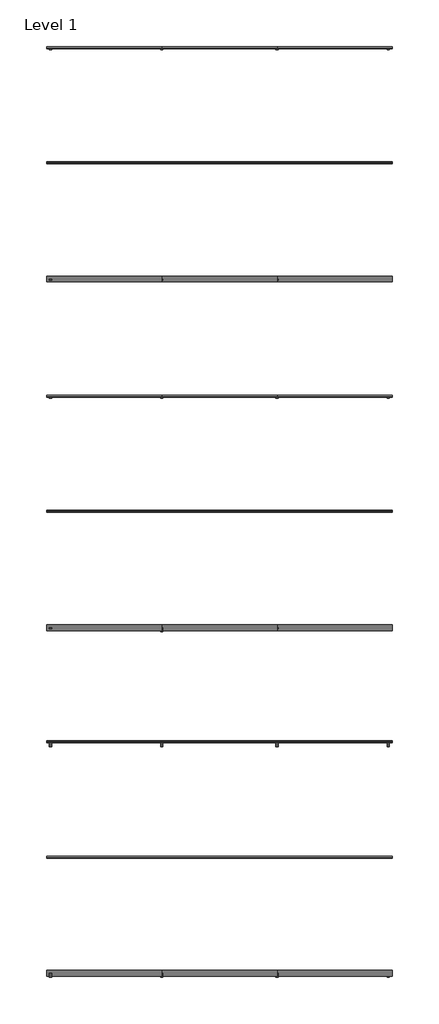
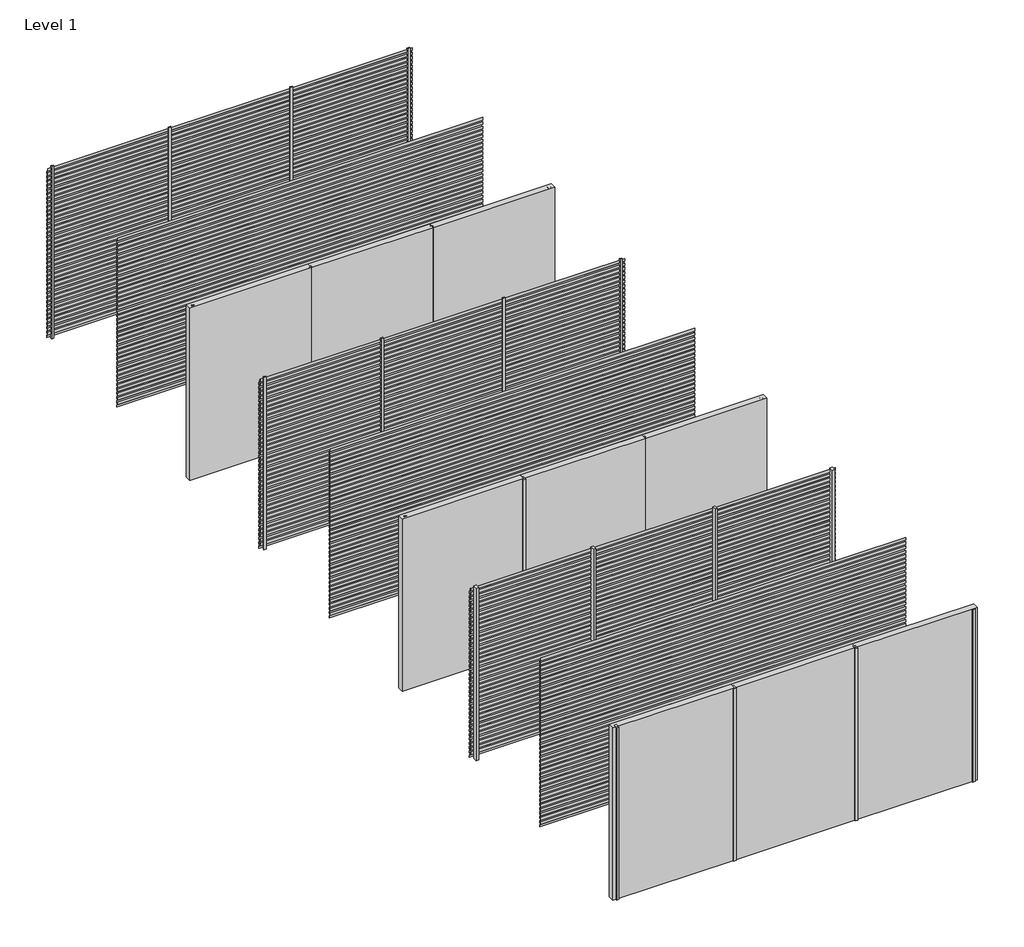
# One storey: 24 members, 21 plates.
"""IFC4 building model written with IfcOpenShell, lengths in millimetres."""

from ifc_helpers import new_model, si_unit, origin, place, context, project, spatial, transform, mapped, element, save
from components import rectangular_mullion_38ebcafd, rectangular_mullion_2b30d03f, rectangular_mullion_a5d3c004, rectangular_mullion_b9a1a312, rectangular_mullion_3da17bfe, rectangular_mullion_3b23135f, empty_system_panel_empty_24b1c33f, screening_35_75_screening_35_75_4ebe1a9e, screening_35_75_screening_35_75_062fe571

model = new_model("IFC4")

# Units and contexts
model_context = context("Model", 3, world=origin())
ifc_project = project(units=[si_unit("LENGTHUNIT", "METRE", prefix="MILLI")], contexts=[model_context])

# Site, building, storey
site = spatial("IfcSite", under=ifc_project)
building = spatial("IfcBuilding", under=site)
storey = spatial("IfcBuildingStorey", under=building, Name="Level 1", Elevation=0.0)

# Members
placement = place(None, origin())
rectangular_mullion_shape = rectangular_mullion_38ebcafd(model_context)
element("IfcMember", 1, ObjectType="Rectangular Mullion : RSen_21_CWM_support profile - 40x21 - left_gen_duco projects", at=placement, inside=storey, context=model_context, shape_type="MappedRepresentation", body=[
    mapped(rectangular_mullion_shape, transform((0.0, 0.0, 0.0), x_axis=(-1.0, 0.0, 0.0), y_axis=(0.0, 1.0, 0.0), z_axis=(0.0, 0.0, -1.0))),
])
element("IfcMember", 2, ObjectType="Rectangular Mullion : RSen_21_CWM_support profile - 40x21 - left_gen_duco projects", at=placement, inside=storey, context=model_context, shape_type="MappedRepresentation", body=[
    mapped(rectangular_mullion_shape, transform((0.0, -4000.0, 0.0), x_axis=(-1.0, 0.0, 0.0), y_axis=(0.0, 1.0, 0.0), z_axis=(0.0, 0.0, -1.0))),
])
rectangular_mullion_2_shape = rectangular_mullion_2b30d03f(model_context)
element("IfcMember", 3, ObjectType="Rectangular Mullion : RSen_21_CWM_support profile - 40x21 - right_gen_duco projects", at=placement, inside=storey, context=model_context, shape_type="MappedRepresentation", body=[
    mapped(rectangular_mullion_2_shape, transform((6000.0, 0.0, 3000.0), x_axis=(1.0, 0.0, 0.0), y_axis=(0.0, 1.0, 0.0), z_axis=(0.0, 0.0, 1.0))),
])
element("IfcMember", 4, ObjectType="Rectangular Mullion : RSen_21_CWM_support profile - 40x21 - right_gen_duco projects", at=placement, inside=storey, context=model_context, shape_type="MappedRepresentation", body=[
    mapped(rectangular_mullion_2_shape, transform((6000.0, -4000.0, 3000.0), x_axis=(1.0, 0.0, 0.0), y_axis=(0.0, 1.0, 0.0), z_axis=(0.0, 0.0, 1.0))),
])
rectangular_mullion_3_shape = rectangular_mullion_a5d3c004(model_context)
element("IfcMember", 5, ObjectType="Rectangular Mullion : RSen_21_CWM_support profile - 40x70-double - left_gen_duco projects", at=placement, inside=storey, context=model_context, shape_type="MappedRepresentation", body=[
    mapped(rectangular_mullion_3_shape, transform((0.0, -6000.0, 0.0), x_axis=(-1.0, 0.0, 0.0), y_axis=(0.0, 1.0, 0.0), z_axis=(0.0, 0.0, -1.0))),
])
element("IfcMember", 6, ObjectType="Rectangular Mullion : RSen_21_CWM_support profile - 40x70-double - left_gen_duco projects", at=placement, inside=storey, context=model_context, shape_type="MappedRepresentation", body=[
    mapped(rectangular_mullion_3_shape, transform((0.0, -10000.0, 0.0), x_axis=(-1.0, 0.0, 0.0), y_axis=(0.0, 1.0, 0.0), z_axis=(0.0, 0.0, -1.0))),
])
rectangular_mullion_4_shape = rectangular_mullion_b9a1a312(model_context)
element("IfcMember", 7, ObjectType="Rectangular Mullion : RSen_21_CWM_support profile - 40x70-double - right_gen_duco projects", at=placement, inside=storey, context=model_context, shape_type="MappedRepresentation", body=[
    mapped(rectangular_mullion_4_shape, transform((6000.0, -6000.0, 3000.0), x_axis=(1.0, 0.0, 0.0), y_axis=(0.0, 1.0, 0.0), z_axis=(0.0, 0.0, 1.0))),
])
element("IfcMember", 8, ObjectType="Rectangular Mullion : RSen_21_CWM_support profile - 40x70-double - right_gen_duco projects", at=placement, inside=storey, context=model_context, shape_type="MappedRepresentation", body=[
    mapped(rectangular_mullion_4_shape, transform((6000.0, -10000.0, 3000.0), x_axis=(1.0, 0.0, 0.0), y_axis=(0.0, 1.0, 0.0), z_axis=(0.0, 0.0, 1.0))),
])
rectangular_mullion_5_shape = rectangular_mullion_3da17bfe(model_context)
element("IfcMember", 9, ObjectType="Rectangular Mullion : RSen_21_CWM_support profile - 40x70-double_gen_duco projects", at=placement, inside=storey, context=model_context, shape_type="MappedRepresentation", body=[
    mapped(rectangular_mullion_5_shape, transform((2000.0, -4000.0, 0.0), x_axis=(-1.0, 0.0, 0.0), y_axis=(0.0, 1.0, 0.0), z_axis=(0.0, 0.0, -1.0))),
])
element("IfcMember", 10, ObjectType="Rectangular Mullion : RSen_21_CWM_support profile - 40x70-double_gen_duco projects", at=placement, inside=storey, context=model_context, shape_type="MappedRepresentation", body=[
    mapped(rectangular_mullion_5_shape, transform((4000.0, -6000.0, 0.0), x_axis=(-1.0, 0.0, 0.0), y_axis=(0.0, 1.0, 0.0), z_axis=(0.0, 0.0, -1.0))),
])
element("IfcMember", 11, ObjectType="Rectangular Mullion : RSen_21_CWM_support profile - 40x70-double_gen_duco projects", at=placement, inside=storey, context=model_context, shape_type="MappedRepresentation", body=[
    mapped(rectangular_mullion_5_shape, transform((2000.0, -6000.0, 0.0), x_axis=(-1.0, 0.0, 0.0), y_axis=(0.0, 1.0, 0.0), z_axis=(0.0, 0.0, -1.0))),
])
element("IfcMember", 12, ObjectType="Rectangular Mullion : RSen_21_CWM_support profile - 40x70-double_gen_duco projects", at=placement, inside=storey, context=model_context, shape_type="MappedRepresentation", body=[
    mapped(rectangular_mullion_5_shape, transform((4000.0, -10000.0, 0.0), x_axis=(-1.0, 0.0, 0.0), y_axis=(0.0, 1.0, 0.0), z_axis=(0.0, 0.0, -1.0))),
])
element("IfcMember", 13, ObjectType="Rectangular Mullion : RSen_21_CWM_support profile - 40x70-double_gen_duco projects", at=placement, inside=storey, context=model_context, shape_type="MappedRepresentation", body=[
    mapped(rectangular_mullion_5_shape, transform((2000.0, -10000.0, 0.0), x_axis=(-1.0, 0.0, 0.0), y_axis=(0.0, 1.0, 0.0), z_axis=(0.0, 0.0, -1.0))),
])
rectangular_mullion_6_shape = rectangular_mullion_3b23135f(model_context)
element("IfcMember", 14, ObjectType="Rectangular Mullion : RSen_21_CWM_support profile - 40x21 - gen_duco projects", at=placement, inside=storey, context=model_context, shape_type="MappedRepresentation", body=[
    mapped(rectangular_mullion_6_shape, transform((4000.0, 0.0, 0.0), x_axis=(-1.0, 0.0, 0.0), y_axis=(0.0, 1.0, 0.0), z_axis=(0.0, 0.0, -1.0))),
])
element("IfcMember", 15, ObjectType="Rectangular Mullion : RSen_21_CWM_support profile - 40x21 - gen_duco projects", at=placement, inside=storey, context=model_context, shape_type="MappedRepresentation", body=[
    mapped(rectangular_mullion_6_shape, transform((2000.0, 0.0, 0.0), x_axis=(-1.0, 0.0, 0.0), y_axis=(0.0, 1.0, 0.0), z_axis=(0.0, 0.0, -1.0))),
])
element("IfcMember", 16, ObjectType="Rectangular Mullion : RSen_21_CWM_support profile - 40x21 - gen_duco projects", at=placement, inside=storey, context=model_context, shape_type="MappedRepresentation", body=[
    mapped(rectangular_mullion_6_shape, transform((4000.0, -4000.0, 0.0), x_axis=(-1.0, 0.0, 0.0), y_axis=(0.0, 1.0, 0.0), z_axis=(0.0, 0.0, -1.0))),
])
element("IfcMember", 17, ObjectType="Rectangular Mullion : RSen_21_CWM_support profile - 40x21-double_gen_duco projects", at=placement, inside=storey, context=model_context, shape_type="MappedRepresentation", body=[
    mapped(rectangular_mullion_6_shape, transform((4000.0, 6050.5, 0.0), x_axis=(-1.0, 0.0, 0.0), y_axis=(0.0, 1.0, 0.0), z_axis=(0.0, 0.0, -1.0))),
])
element("IfcMember", 18, ObjectType="Rectangular Mullion : RSen_21_CWM_support profile - 40x21-double_gen_duco projects", at=placement, inside=storey, context=model_context, shape_type="MappedRepresentation", body=[
    mapped(rectangular_mullion_6_shape, transform((2000.0, 6050.5, 0.0), x_axis=(-1.0, 0.0, 0.0), y_axis=(0.0, 1.0, 0.0), z_axis=(0.0, 0.0, -1.0))),
])
element("IfcMember", 19, ObjectType="Rectangular Mullion : RSen_21_CWM_support profile - 40x21-double_gen_duco projects", at=placement, inside=storey, context=model_context, shape_type="MappedRepresentation", body=[
    mapped(rectangular_mullion_6_shape, transform((4000.0, 2050.5, 0.0), x_axis=(-1.0, 0.0, 0.0), y_axis=(0.0, 1.0, 0.0), z_axis=(0.0, 0.0, -1.0))),
])
element("IfcMember", 20, ObjectType="Rectangular Mullion : RSen_21_CWM_support profile - 40x21-double_gen_duco projects", at=placement, inside=storey, context=model_context, shape_type="MappedRepresentation", body=[
    mapped(rectangular_mullion_6_shape, transform((2000.0, 2050.5, 0.0), x_axis=(-1.0, 0.0, 0.0), y_axis=(0.0, 1.0, 0.0), z_axis=(0.0, 0.0, -1.0))),
])
element("IfcMember", 21, ObjectType="Rectangular Mullion : RSen_21_CWM_support profile - 40x21-double - right_gen_duco projects", at=placement, inside=storey, context=model_context, shape_type="MappedRepresentation", body=[
    mapped(rectangular_mullion_2_shape, transform((6000.0, 6050.5, 3000.0), x_axis=(1.0, 0.0, 0.0), y_axis=(0.0, 1.0, 0.0), z_axis=(0.0, 0.0, 1.0))),
])
element("IfcMember", 22, ObjectType="Rectangular Mullion : RSen_21_CWM_support profile - 40x21-double - right_gen_duco projects", at=placement, inside=storey, context=model_context, shape_type="MappedRepresentation", body=[
    mapped(rectangular_mullion_2_shape, transform((6000.0, 2050.5, 3000.0), x_axis=(1.0, 0.0, 0.0), y_axis=(0.0, 1.0, 0.0), z_axis=(0.0, 0.0, 1.0))),
])
element("IfcMember", 23, ObjectType="Rectangular Mullion : RSen_21_CWM_support profile - 40x21-double - left_gen_duco projects", at=placement, inside=storey, context=model_context, shape_type="MappedRepresentation", body=[
    mapped(rectangular_mullion_shape, transform((0.0, 6050.5, 0.0), x_axis=(-1.0, 0.0, 0.0), y_axis=(0.0, 1.0, 0.0), z_axis=(0.0, 0.0, -1.0))),
])
element("IfcMember", 24, ObjectType="Rectangular Mullion : RSen_21_CWM_support profile - 40x21-double - left_gen_duco projects", at=placement, inside=storey, context=model_context, shape_type="MappedRepresentation", body=[
    mapped(rectangular_mullion_shape, transform((0.0, 2050.5, 0.0), x_axis=(-1.0, 0.0, 0.0), y_axis=(0.0, 1.0, 0.0), z_axis=(0.0, 0.0, -1.0))),
])

# Plates
empty_system_panel_empty_shape = empty_system_panel_empty_24b1c33f(model_context)
element("IfcPlate", 25, ObjectType="Empty System Panel : Empty", at=placement, inside=storey, context=model_context, shape_type="MappedRepresentation", body=[
    mapped(empty_system_panel_empty_shape, transform((5000.0, -4000.0, 0.0), x_axis=(-1.0, 0.0, 0.0), y_axis=(0.0, -1.0, 0.0), z_axis=(0.0, 0.0, 1.0))),
])
element("IfcPlate", 26, ObjectType="Empty System Panel : Empty", at=placement, inside=storey, context=model_context, shape_type="MappedRepresentation", body=[
    mapped(empty_system_panel_empty_shape, transform((5000.0, -10000.0, 0.0), x_axis=(-1.0, 0.0, 0.0), y_axis=(0.0, -1.0, 0.0), z_axis=(0.0, 0.0, 1.0))),
])
element("IfcPlate", 27, ObjectType="Empty System Panel : Empty", at=placement, inside=storey, context=model_context, shape_type="MappedRepresentation", body=[
    mapped(empty_system_panel_empty_shape, transform((3000.0, -4000.0, 0.0), x_axis=(-1.0, 0.0, 0.0), y_axis=(0.0, -1.0, 0.0), z_axis=(0.0, 0.0, 1.0))),
])
element("IfcPlate", 28, ObjectType="Empty System Panel : Empty", at=placement, inside=storey, context=model_context, shape_type="MappedRepresentation", body=[
    mapped(empty_system_panel_empty_shape, transform((1000.0, -4000.0, 0.0), x_axis=(-1.0, 0.0, 0.0), y_axis=(0.0, -1.0, 0.0), z_axis=(0.0, 0.0, 1.0))),
])
element("IfcPlate", 29, ObjectType="Empty System Panel : Empty", at=placement, inside=storey, context=model_context, shape_type="MappedRepresentation", body=[
    mapped(empty_system_panel_empty_shape, transform((3000.0, -10000.0, 0.0), x_axis=(-1.0, 0.0, 0.0), y_axis=(0.0, -1.0, 0.0), z_axis=(0.0, 0.0, 1.0))),
])
element("IfcPlate", 30, ObjectType="Empty System Panel : Empty", at=placement, inside=storey, context=model_context, shape_type="MappedRepresentation", body=[
    mapped(empty_system_panel_empty_shape, transform((1000.0, -10000.0, 0.0), x_axis=(-1.0, 0.0, 0.0), y_axis=(0.0, -1.0, 0.0), z_axis=(0.0, 0.0, 1.0))),
])
element("IfcPlate", 31, ObjectType="Empty System Panel : Empty", at=placement, inside=storey, context=model_context, shape_type="MappedRepresentation", body=[
    mapped(empty_system_panel_empty_shape, transform((5000.0, 2050.5, 0.0), x_axis=(-1.0, 0.0, 0.0), y_axis=(0.0, -1.0, 0.0), z_axis=(0.0, 0.0, 1.0))),
])
element("IfcPlate", 32, ObjectType="Empty System Panel : Empty", at=placement, inside=storey, context=model_context, shape_type="MappedRepresentation", body=[
    mapped(empty_system_panel_empty_shape, transform((3000.0, 2050.5, 0.0), x_axis=(-1.0, 0.0, 0.0), y_axis=(0.0, -1.0, 0.0), z_axis=(0.0, 0.0, 1.0))),
])
element("IfcPlate", 33, ObjectType="Empty System Panel : Empty", at=placement, inside=storey, context=model_context, shape_type="MappedRepresentation", body=[
    mapped(empty_system_panel_empty_shape, transform((1000.0, 2050.5, 0.0), x_axis=(-1.0, 0.0, 0.0), y_axis=(0.0, -1.0, 0.0), z_axis=(0.0, 0.0, 1.0))),
])
screening_35_75_screening_35_75_shape = screening_35_75_screening_35_75_4ebe1a9e(model_context)
element("IfcPlate", 34, ObjectType="Screening 35-75 : Screening 35-75", at=placement, inside=storey, context=model_context, shape_type="MappedRepresentation", body=[
    mapped(screening_35_75_screening_35_75_shape, transform((5000.0, 0.0, 0.0), x_axis=(-1.0, 0.0, 0.0), y_axis=(0.0, -1.0, 0.0), z_axis=(0.0, 0.0, 1.0))),
])
element("IfcPlate", 35, ObjectType="Screening 35-75 : Screening 35-75", at=placement, inside=storey, context=model_context, shape_type="MappedRepresentation", body=[
    mapped(screening_35_75_screening_35_75_shape, transform((5000.0, -6000.0, 0.0), x_axis=(-1.0, 0.0, 0.0), y_axis=(0.0, -1.0, 0.0), z_axis=(0.0, 0.0, 1.0))),
])
element("IfcPlate", 36, ObjectType="Screening 35-75 : Screening 35-75", at=placement, inside=storey, context=model_context, shape_type="MappedRepresentation", body=[
    mapped(screening_35_75_screening_35_75_shape, transform((3000.0, 0.0, 0.0), x_axis=(-1.0, 0.0, 0.0), y_axis=(0.0, -1.0, 0.0), z_axis=(0.0, 0.0, 1.0))),
])
element("IfcPlate", 37, ObjectType="Screening 35-75 : Screening 35-75", at=placement, inside=storey, context=model_context, shape_type="MappedRepresentation", body=[
    mapped(screening_35_75_screening_35_75_shape, transform((1000.0, 0.0, 0.0), x_axis=(-1.0, 0.0, 0.0), y_axis=(0.0, -1.0, 0.0), z_axis=(0.0, 0.0, 1.0))),
])
element("IfcPlate", 38, ObjectType="Screening 35-75 : Screening 35-75", at=placement, inside=storey, context=model_context, shape_type="MappedRepresentation", body=[
    mapped(screening_35_75_screening_35_75_shape, transform((3000.0, -6000.0, 0.0), x_axis=(-1.0, 0.0, 0.0), y_axis=(0.0, -1.0, 0.0), z_axis=(0.0, 0.0, 1.0))),
])
element("IfcPlate", 39, ObjectType="Screening 35-75 : Screening 35-75", at=placement, inside=storey, context=model_context, shape_type="MappedRepresentation", body=[
    mapped(screening_35_75_screening_35_75_shape, transform((1000.0, -6000.0, 0.0), x_axis=(-1.0, 0.0, 0.0), y_axis=(0.0, -1.0, 0.0), z_axis=(0.0, 0.0, 1.0))),
])
element("IfcPlate", 40, ObjectType="Screening 35-75 : Screening 35-75", at=placement, inside=storey, context=model_context, shape_type="MappedRepresentation", body=[
    mapped(screening_35_75_screening_35_75_shape, transform((5000.0, 6050.5, 0.0), x_axis=(-1.0, 0.0, 0.0), y_axis=(0.0, -1.0, 0.0), z_axis=(0.0, 0.0, 1.0))),
])
element("IfcPlate", 41, ObjectType="Screening 35-75 : Screening 35-75", at=placement, inside=storey, context=model_context, shape_type="MappedRepresentation", body=[
    mapped(screening_35_75_screening_35_75_shape, transform((3000.0, 6050.5, 0.0), x_axis=(-1.0, 0.0, 0.0), y_axis=(0.0, -1.0, 0.0), z_axis=(0.0, 0.0, 1.0))),
])
element("IfcPlate", 42, ObjectType="Screening 35-75 : Screening 35-75", at=placement, inside=storey, context=model_context, shape_type="MappedRepresentation", body=[
    mapped(screening_35_75_screening_35_75_shape, transform((1000.0, 6050.5, 0.0), x_axis=(-1.0, 0.0, 0.0), y_axis=(0.0, -1.0, 0.0), z_axis=(0.0, 0.0, 1.0))),
])
screening_35_75_screening_35_75_2_shape = screening_35_75_screening_35_75_062fe571(model_context)
element("IfcPlate", 43, ObjectType="Screening 35-75 : Screening 35-75", at=placement, inside=storey, context=model_context, shape_type="MappedRepresentation", body=[
    mapped(screening_35_75_screening_35_75_2_shape, transform((3000.0, -2000.0, 0.0), x_axis=(-1.0, 0.0, 0.0), y_axis=(0.0, -1.0, 0.0), z_axis=(0.0, 0.0, 1.0))),
])
element("IfcPlate", 44, ObjectType="Screening 35-75 : Screening 35-75", at=placement, inside=storey, context=model_context, shape_type="MappedRepresentation", body=[
    mapped(screening_35_75_screening_35_75_2_shape, transform((3000.0, -8000.0, 0.0), x_axis=(-1.0, 0.0, 0.0), y_axis=(0.0, -1.0, 0.0), z_axis=(0.0, 0.0, 1.0))),
])
element("IfcPlate", 45, ObjectType="Screening 35-75 : Screening 35-75", at=placement, inside=storey, context=model_context, shape_type="MappedRepresentation", body=[
    mapped(screening_35_75_screening_35_75_2_shape, transform((3000.0, 4050.5, 0.0), x_axis=(-1.0, 0.0, 0.0), y_axis=(0.0, -1.0, 0.0), z_axis=(0.0, 0.0, 1.0))),
])

save(model, "model.ifc")
